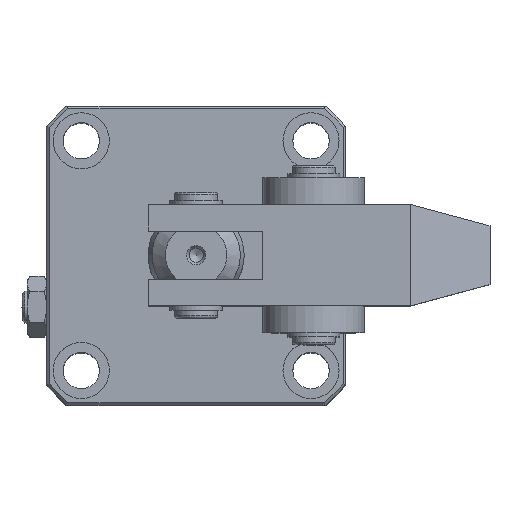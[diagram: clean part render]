
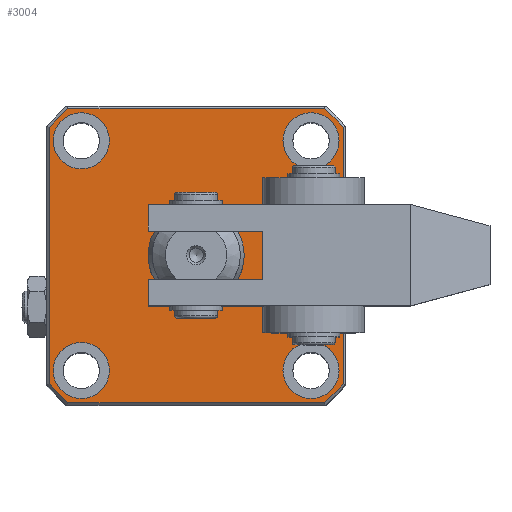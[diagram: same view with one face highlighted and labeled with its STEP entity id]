
A CAD part, top view. The second image highlights one B-rep face of the part: STEP entity #3004.
In plain terms, the highlighted planar face has unit normal (0, 0, 1).
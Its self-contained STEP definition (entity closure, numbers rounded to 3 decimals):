
#315=LINE('',#4568,#466);
#316=LINE('',#4571,#467);
#317=LINE('',#4573,#468);
#318=LINE('',#4577,#469);
#319=LINE('',#4581,#470);
#320=LINE('',#4585,#471);
#321=LINE('',#4589,#472);
#322=LINE('',#4591,#473);
#466=VECTOR('',#3681,1000.);
#467=VECTOR('',#3682,1000.);
#468=VECTOR('',#3683,1000.);
#469=VECTOR('',#3686,1000.);
#470=VECTOR('',#3689,1000.);
#471=VECTOR('',#3692,1000.);
#472=VECTOR('',#3695,1000.);
#473=VECTOR('',#3696,1000.);
#617=ORIENTED_EDGE('',*,*,#1439,.T.);
#618=ORIENTED_EDGE('',*,*,#1440,.F.);
#619=ORIENTED_EDGE('',*,*,#1441,.F.);
#620=ORIENTED_EDGE('',*,*,#1442,.F.);
#621=ORIENTED_EDGE('',*,*,#1443,.F.);
#622=ORIENTED_EDGE('',*,*,#1444,.T.);
#623=ORIENTED_EDGE('',*,*,#1445,.T.);
#624=ORIENTED_EDGE('',*,*,#1446,.T.);
#625=ORIENTED_EDGE('',*,*,#1447,.T.);
#626=ORIENTED_EDGE('',*,*,#1448,.T.);
#627=ORIENTED_EDGE('',*,*,#1449,.T.);
#628=ORIENTED_EDGE('',*,*,#1450,.T.);
#629=ORIENTED_EDGE('',*,*,#1451,.T.);
#630=ORIENTED_EDGE('',*,*,#1452,.T.);
#631=ORIENTED_EDGE('',*,*,#1453,.T.);
#632=ORIENTED_EDGE('',*,*,#1454,.T.);
#633=ORIENTED_EDGE('',*,*,#1455,.F.);
#1439=EDGE_CURVE('',#1850,#1850,#2133,.T.);
#1440=EDGE_CURVE('',#1851,#1851,#2134,.T.);
#1441=EDGE_CURVE('',#1852,#1852,#2135,.T.);
#1442=EDGE_CURVE('',#1853,#1853,#2136,.T.);
#1443=EDGE_CURVE('',#1854,#1854,#2137,.T.);
#1444=EDGE_CURVE('',#1855,#1856,#315,.T.);
#1445=EDGE_CURVE('',#1856,#1857,#316,.T.);
#1446=EDGE_CURVE('',#1857,#1858,#317,.T.);
#1447=EDGE_CURVE('',#1858,#1859,#2138,.T.);
#1448=EDGE_CURVE('',#1859,#1860,#318,.T.);
#1449=EDGE_CURVE('',#1860,#1861,#2139,.T.);
#1450=EDGE_CURVE('',#1861,#1862,#319,.T.);
#1451=EDGE_CURVE('',#1862,#1863,#2140,.T.);
#1452=EDGE_CURVE('',#1863,#1864,#320,.T.);
#1453=EDGE_CURVE('',#1864,#1865,#2141,.T.);
#1454=EDGE_CURVE('',#1865,#1866,#321,.T.);
#1455=EDGE_CURVE('',#1855,#1866,#322,.T.);
#1850=VERTEX_POINT('',#4559);
#1851=VERTEX_POINT('',#4561);
#1852=VERTEX_POINT('',#4563);
#1853=VERTEX_POINT('',#4565);
#1854=VERTEX_POINT('',#4567);
#1855=VERTEX_POINT('',#4569);
#1856=VERTEX_POINT('',#4570);
#1857=VERTEX_POINT('',#4572);
#1858=VERTEX_POINT('',#4574);
#1859=VERTEX_POINT('',#4576);
#1860=VERTEX_POINT('',#4578);
#1861=VERTEX_POINT('',#4580);
#1862=VERTEX_POINT('',#4582);
#1863=VERTEX_POINT('',#4584);
#1864=VERTEX_POINT('',#4586);
#1865=VERTEX_POINT('',#4588);
#1866=VERTEX_POINT('',#4590);
#2133=CIRCLE('',#3300,9.);
#2134=CIRCLE('',#3301,5.25);
#2135=CIRCLE('',#3302,5.25);
#2136=CIRCLE('',#3303,5.25);
#2137=CIRCLE('',#3304,5.25);
#2138=CIRCLE('',#3305,36.5);
#2139=CIRCLE('',#3306,36.5);
#2140=CIRCLE('',#3307,36.5);
#2141=CIRCLE('',#3308,36.5);
#2285=EDGE_LOOP('',(#617));
#2286=EDGE_LOOP('',(#618));
#2287=EDGE_LOOP('',(#619));
#2288=EDGE_LOOP('',(#620));
#2289=EDGE_LOOP('',(#621));
#2290=EDGE_LOOP('',(#622,#623,#624,#625,#626,#627,#628,#629,#630,#631,#632,
#633));
#2596=FACE_BOUND('',#2285,.T.);
#2597=FACE_BOUND('',#2286,.T.);
#2598=FACE_BOUND('',#2287,.T.);
#2599=FACE_BOUND('',#2288,.T.);
#2600=FACE_BOUND('',#2289,.T.);
#2601=FACE_BOUND('',#2290,.T.);
#2908=PLANE('',#3299);
#3004=ADVANCED_FACE('',(#2596,#2597,#2598,#2599,#2600,#2601),#2908,.T.);
#3299=AXIS2_PLACEMENT_3D('',#4557,#3669,#3670);
#3300=AXIS2_PLACEMENT_3D('',#4558,#3671,#3672);
#3301=AXIS2_PLACEMENT_3D('',#4560,#3673,#3674);
#3302=AXIS2_PLACEMENT_3D('',#4562,#3675,#3676);
#3303=AXIS2_PLACEMENT_3D('',#4564,#3677,#3678);
#3304=AXIS2_PLACEMENT_3D('',#4566,#3679,#3680);
#3305=AXIS2_PLACEMENT_3D('',#4575,#3684,#3685);
#3306=AXIS2_PLACEMENT_3D('',#4579,#3687,#3688);
#3307=AXIS2_PLACEMENT_3D('',#4583,#3690,#3691);
#3308=AXIS2_PLACEMENT_3D('',#4587,#3693,#3694);
#3669=DIRECTION('',(0.,0.,1.));
#3670=DIRECTION('',(0.,-1.,0.));
#3671=DIRECTION('',(0.,0.,-1.));
#3672=DIRECTION('',(0.,-1.,0.));
#3673=DIRECTION('',(0.,0.,1.));
#3674=DIRECTION('',(1.,0.,0.));
#3675=DIRECTION('',(0.,0.,1.));
#3676=DIRECTION('',(1.,0.,0.));
#3677=DIRECTION('',(0.,0.,1.));
#3678=DIRECTION('',(1.,0.,0.));
#3679=DIRECTION('',(0.,0.,1.));
#3680=DIRECTION('',(1.,0.,0.));
#3681=DIRECTION('',(0.,1.,0.));
#3682=DIRECTION('',(1.,0.,0.));
#3683=DIRECTION('',(0.,1.,0.));
#3684=DIRECTION('',(0.,0.,1.));
#3685=DIRECTION('',(0.,-1.,0.));
#3686=DIRECTION('',(-1.,0.,0.));
#3687=DIRECTION('',(0.,0.,1.));
#3688=DIRECTION('',(0.,-1.,0.));
#3689=DIRECTION('',(0.,-1.,0.));
#3690=DIRECTION('',(0.,0.,1.));
#3691=DIRECTION('',(0.,-1.,0.));
#3692=DIRECTION('',(1.,0.,0.));
#3693=DIRECTION('',(0.,0.,1.));
#3694=DIRECTION('',(0.,-1.,0.));
#3695=DIRECTION('',(0.,1.,0.));
#3696=DIRECTION('',(1.,0.,0.));
#4557=CARTESIAN_POINT('',(0.,0.,76.));
#4558=CARTESIAN_POINT('',(0.,0.,76.));
#4559=CARTESIAN_POINT('',(0.,-9.,76.));
#4560=CARTESIAN_POINT('',(21.5,-21.5,76.));
#4561=CARTESIAN_POINT('',(26.75,-21.5,76.));
#4562=CARTESIAN_POINT('',(-21.5,-21.5,76.));
#4563=CARTESIAN_POINT('',(-16.25,-21.5,76.));
#4564=CARTESIAN_POINT('',(-21.5,21.5,76.));
#4565=CARTESIAN_POINT('',(-16.25,21.5,76.));
#4566=CARTESIAN_POINT('',(21.5,21.5,76.));
#4567=CARTESIAN_POINT('',(26.75,21.5,76.));
#4568=CARTESIAN_POINT('',(14.,-9.5,76.));
#4569=CARTESIAN_POINT('',(14.,-9.5,76.));
#4570=CARTESIAN_POINT('',(14.,9.5,76.));
#4571=CARTESIAN_POINT('',(14.,9.5,76.));
#4572=CARTESIAN_POINT('',(27.5,9.5,76.));
#4573=CARTESIAN_POINT('',(27.5,0.,76.));
#4574=CARTESIAN_POINT('',(27.5,24.,76.));
#4575=CARTESIAN_POINT('',(0.,0.,76.));
#4576=CARTESIAN_POINT('',(24.,27.5,76.));
#4577=CARTESIAN_POINT('',(0.,27.5,76.));
#4578=CARTESIAN_POINT('',(-24.,27.5,76.));
#4579=CARTESIAN_POINT('',(0.,0.,76.));
#4580=CARTESIAN_POINT('',(-27.5,24.,76.));
#4581=CARTESIAN_POINT('',(-27.5,0.,76.));
#4582=CARTESIAN_POINT('',(-27.5,-24.,76.));
#4583=CARTESIAN_POINT('',(0.,0.,76.));
#4584=CARTESIAN_POINT('',(-24.,-27.5,76.));
#4585=CARTESIAN_POINT('',(0.,-27.5,76.));
#4586=CARTESIAN_POINT('',(24.,-27.5,76.));
#4587=CARTESIAN_POINT('',(0.,0.,76.));
#4588=CARTESIAN_POINT('',(27.5,-24.,76.));
#4589=CARTESIAN_POINT('',(27.5,0.,76.));
#4590=CARTESIAN_POINT('',(27.5,-9.5,76.));
#4591=CARTESIAN_POINT('',(14.,-9.5,76.));
